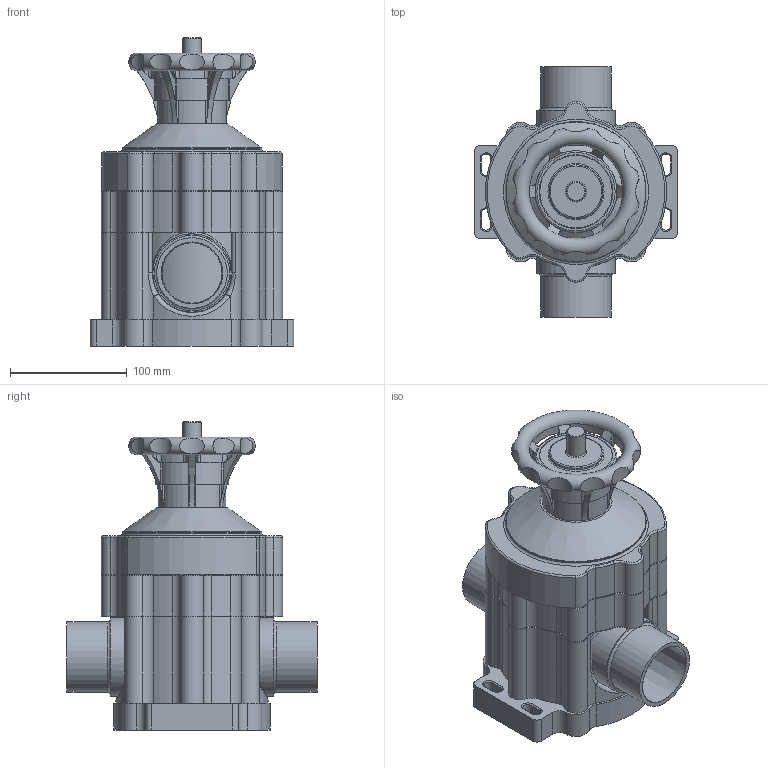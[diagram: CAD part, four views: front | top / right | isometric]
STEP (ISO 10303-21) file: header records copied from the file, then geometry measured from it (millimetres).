
FILE_DESCRIPTION(/* description */ (''),/* implementation_level */ '2;1');
FILE_NAME(/* name */ '50A MV Assy_stp.stp',/* time_stamp */ '2019-10-04T16:07:56+09:00',/* author */ (''),/* organization */ (''),/* preprocessor_version */ 'ST-DEVELOPER v11',/* originating_system */ 'SIEMENS PLM Software NX 7.5',/* authorisation */ '');
FILE_SCHEMA (('AUTOMOTIVE_DESIGN { 1 0 10303 214 1 1 1 1 }'));
Length unit declared in the file: millimetre
Products named in the file (9): Middle Case(50A); 2Inch Base (Final); PC CAP(50A); Handle_50A(1); Top Case(50A); POM Assy - 0710; 50A BODY  - ( -20180607); Middle Case(50A) Assy; 50A MV Assy_stp
Assembly tree (8 placements, depth 3):
  50A MV Assy_stp
    50A BODY  - ( -20180607)
    Middle Case(50A) Assy
      Middle Case(50A)
    POM Assy - 0710
    Top Case(50A)
    Handle_50A(1)
    PC CAP(50A)
    2Inch Base (Final)
Bounding box: 174 x 214 x 263.5 mm (x, y, z)
Volume: 3179105.4 mm3; surface area: 380012.4 mm2
Topology: 6 solids, 6 shells, 856 faces, 2246 edges, 1414 vertices
Faces by surface type: cylinder 358, plane 261, bspline 108, torus 61, cone 44, sphere 24
Full cylindrical faces by diameter (mm): 6.5 x6, 11 x6, 16 x1, 20 x1, 25 x1, 45 x1, 46 x1, 53 x2, 59 x1, 60.4 x2, 63 x1, 65 x1, 67 x2, 70 x1, 95 x1, 104 x1, 105 x1, 119 x1, 120 x1
Entity records: 31087 total; most frequent: CARTESIAN_POINT 10412, DIRECTION 4384, ORIENTED_EDGE 4276, EDGE_CURVE 2138, AXIS2_PLACEMENT_3D 1791, VERTEX_POINT 1382, CIRCLE 998, EDGE_LOOP 976
